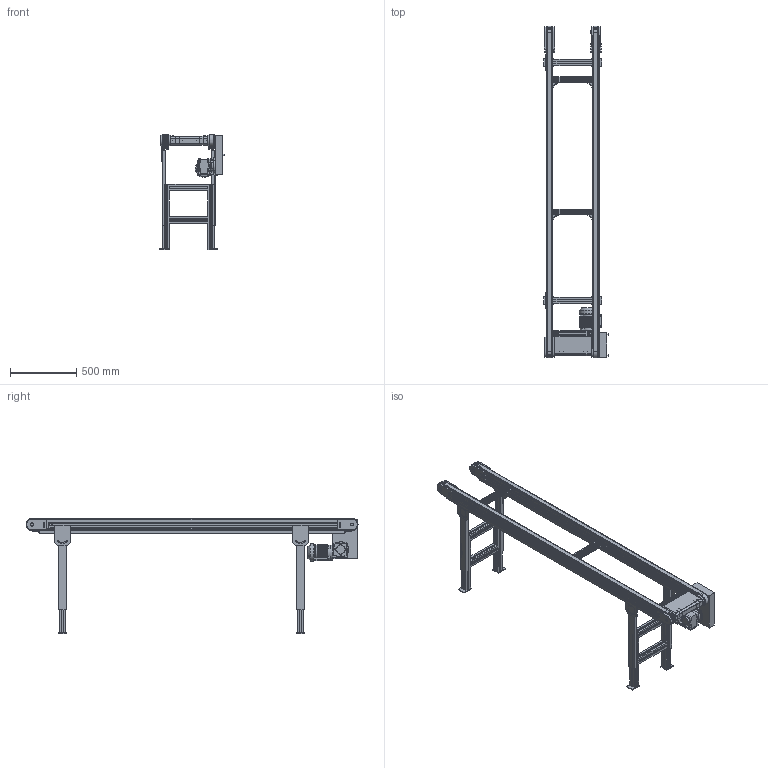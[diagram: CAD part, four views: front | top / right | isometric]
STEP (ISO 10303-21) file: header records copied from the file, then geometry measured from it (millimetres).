
FILE_DESCRIPTION(/* description */ (''),/* implementation_level */ '2;1');
FILE_NAME(/* name */ 'C:\Marketing\01_Versamove-SPU_STEP-Dateien-Homepage\Versamove plus\STEP-Dateien\Zahnriemenförderer_ZRF-P-2010_B400_L2500.stp',/* time_stamp */ '2016-12-22T11:59:55+01:00',/* author */ ('herbert.engels'),/* organization */ (''),/* preprocessor_version */ 'ST-DEVELOPER v15.6',/* originating_system */ 'Autodesk Inventor 2015',/* authorisation */ '');
FILE_SCHEMA (('CONFIG_CONTROL_DESIGN'));
Products named in the file (1): Zahnriemenförderer_ZRF-P-2010_B400_L2500
Bounding box: 490.65 x 2511.13 x 870.56 mm (x, y, z)
Volume: 33312152.1 mm3; surface area: 7519007.8 mm2
Topology: 3 solids, 3 shells, 3608 faces, 10819 edges, 7008 vertices
Faces by surface type: plane 2416, cylinder 891, bspline 172, cone 116, torus 11, sphere 2
Full cylindrical faces by diameter (mm): 7 x4, 8 x32, 13 x12, 16.2 x4, 19 x2, 20 x5, 24 x1, 25.5 x4, 30 x1, 35 x6, 40 x4, 56 x2, 72 x1, 87.127 x1, 117 x1, 120 x1, 132 x1
Entity records: 128033 total; most frequent: CARTESIAN_POINT 27566, ORIENTED_EDGE 21334, DIRECTION 19088, EDGE_CURVE 10657, LINE 7630, VECTOR 7630, VERTEX_POINT 6970, AXIS2_PLACEMENT_3D 5729
